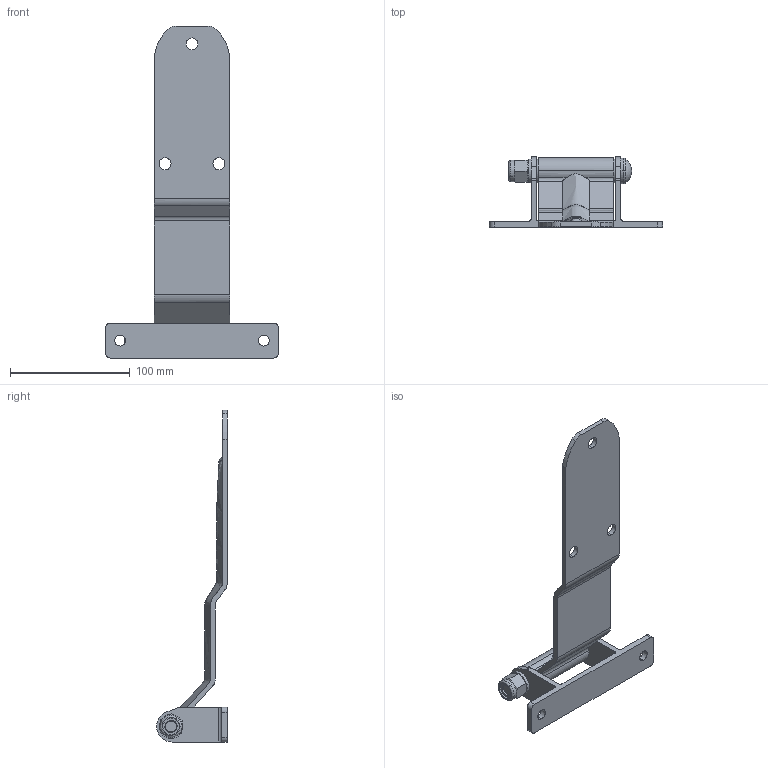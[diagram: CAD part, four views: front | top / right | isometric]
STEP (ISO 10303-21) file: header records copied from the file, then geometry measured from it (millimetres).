
FILE_DESCRIPTION (( 'STEP AP203' ), '1' );
FILE_NAME ('B69 KH-1273.STEP', '2010-10-11T06:07:54', ( ' ' ), ( '' ), 'SwSTEP 2.0', 'SolidWorks 2010', '' );
FILE_SCHEMA (( 'CONFIG_CONTROL_DESIGN' ));
Length unit declared in the file: millimetre
Products named in the file (7): B69 KH-1273; ST か濰離 葬橫 HINGE-02-1; Torque nut 02_ISO_ISO 7041-M12-N-1; Plain washers--Product grade C GB_GB_FASTENER_WASHER_SMWC 12-1; ST か濰離 葬橫 HINGE-01-1; Plain Washer Normal Grade A_ISO_Washer ISO 7089 - 12-1; ST か濰離 葬橫 HINGE-03-1
Assembly tree (7 placements, depth 2):
  B69 KH-1273
    ST か濰離 葬橫 HINGE-02-1
    Plain Washer Normal Grade A_ISO_Washer ISO 7089 - 12-1
    Torque nut 02_ISO_ISO 7041-M12-N-1
    Plain washers--Product grade C GB_GB_FASTENER_WASHER_SMWC 12-1  x2
    ST か濰離 葬橫 HINGE-01-1
    ST か濰離 葬橫 HINGE-03-1
Bounding box: 144.5 x 59 x 277 mm (x, y, z)
Volume: 145890.6 mm3; surface area: 67535.9 mm2
Topology: 7 solids, 7 shells, 140 faces, 351 edges, 227 vertices
Faces by surface type: cylinder 71, plane 45, cone 16, bspline 6, sphere 2
Entity records: 6759 total; most frequent: CARTESIAN_POINT 2808, ORIENTED_EDGE 678, DIRECTION 649, EDGE_CURVE 339, AXIS2_PLACEMENT_3D 256, VERTEX_POINT 219, EDGE_LOOP 158, LINE 137
